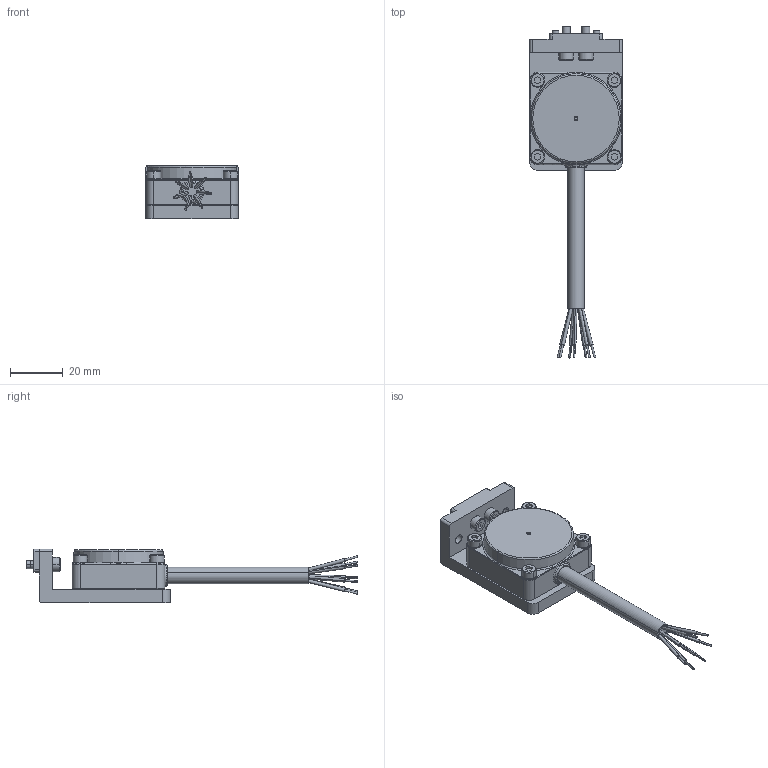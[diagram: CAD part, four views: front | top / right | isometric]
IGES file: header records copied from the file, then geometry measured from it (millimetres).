
Start section: 3D InterOp IGES (v. 2022 1.0.0), Spatial Corp. Copyright (c) 1999-2020.
Global section: file name: KHB-1HS-NN4,NP4_ver1.igs; native system: Spatial Corp.; preprocessor: 3D InterOp GENERIC/IGES 3.0; author: Noname; organization: Noname; date: 20260424.084955; units: millimetre
Bounding box: 35 x 125.57 x 20.2 mm (x, y, z)
Surface area: 12988.2 mm2 (no closed solid volume)
Topology: 0 solids, 0 shells, 345 faces, 1646 edges, 1642 vertices
Faces by surface type: revolution 210, extrusion 122, bspline 13
